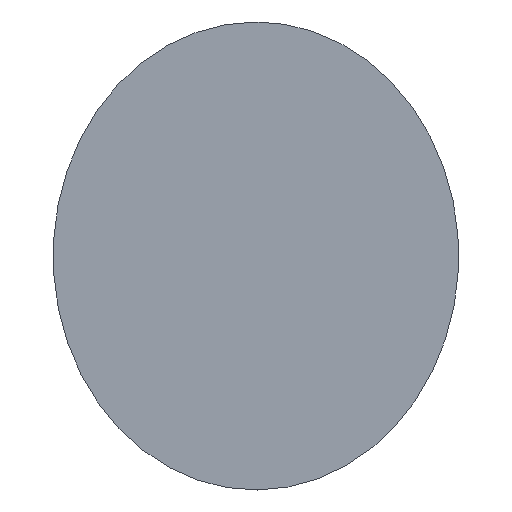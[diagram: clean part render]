
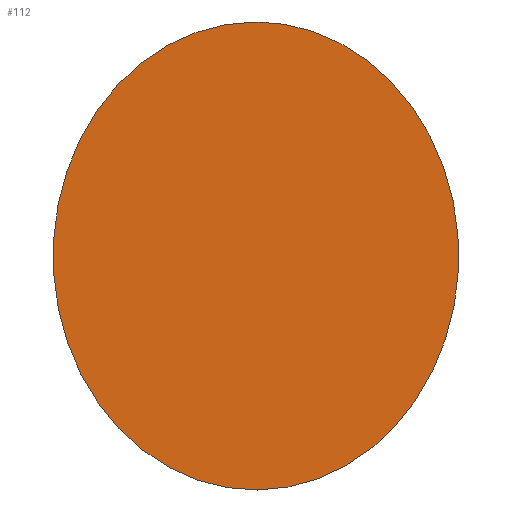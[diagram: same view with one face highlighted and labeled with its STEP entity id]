
A CAD part, top view. The second image highlights one B-rep face of the part: STEP entity #112.
In plain terms, the highlighted planar face has unit normal (0, 0, 1).
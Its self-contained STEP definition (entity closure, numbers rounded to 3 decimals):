
#24 = VERTEX_POINT('',#25);
#25 = CARTESIAN_POINT('',(0.,60.,12.5));
#32 = SURFACE_OF_LINEAR_EXTRUSION('',#33,#38);
#33 = ELLIPSE('',#34,30.,26.);
#34 = AXIS2_PLACEMENT_3D('',#35,#36,#37);
#35 = CARTESIAN_POINT('',(0.,30.,12.46));
#36 = DIRECTION('',(0.,-0.,1.));
#37 = DIRECTION('',(0.,1.,0.));
#38 = VECTOR('',#39,1.);
#39 = DIRECTION('',(-0.,-0.,-1.));
#54 = EDGE_CURVE('',#24,#24,#55,.T.);
#55 = SURFACE_CURVE('',#56,(#61,#68),.PCURVE_S1.);
#56 = ELLIPSE('',#57,30.,26.);
#57 = AXIS2_PLACEMENT_3D('',#58,#59,#60);
#58 = CARTESIAN_POINT('',(0.,30.,12.5));
#59 = DIRECTION('',(0.,-0.,1.));
#60 = DIRECTION('',(0.,1.,0.));
#61 = PCURVE('',#32,#62);
#62 = DEFINITIONAL_REPRESENTATION('',(#63),#67);
#63 = LINE('',#64,#65);
#64 = CARTESIAN_POINT('',(0.,-0.04));
#65 = VECTOR('',#66,1.);
#66 = DIRECTION('',(1.,0.));
#67 = ( GEOMETRIC_REPRESENTATION_CONTEXT(2) 
PARAMETRIC_REPRESENTATION_CONTEXT() REPRESENTATION_CONTEXT('2D SPACE',''
  ) );
#68 = PCURVE('',#69,#74);
#69 = PLANE('',#70);
#70 = AXIS2_PLACEMENT_3D('',#71,#72,#73);
#71 = CARTESIAN_POINT('',(0.,30.544,12.5));
#72 = DIRECTION('',(0.,0.,1.));
#73 = DIRECTION('',(1.,0.,-0.));
#74 = DEFINITIONAL_REPRESENTATION('',(#75),#79);
#75 = ELLIPSE('',#76,30.,26.);
#76 = AXIS2_PLACEMENT_2D('',#77,#78);
#77 = CARTESIAN_POINT('',(0.,-0.544));
#78 = DIRECTION('',(0.,1.));
#79 = ( GEOMETRIC_REPRESENTATION_CONTEXT(2) 
PARAMETRIC_REPRESENTATION_CONTEXT() REPRESENTATION_CONTEXT('2D SPACE',''
  ) );
#112 = ADVANCED_FACE('',(#113),#69,.T.);
#113 = FACE_BOUND('',#114,.T.);
#114 = EDGE_LOOP('',(#115));
#115 = ORIENTED_EDGE('',*,*,#54,.T.);
